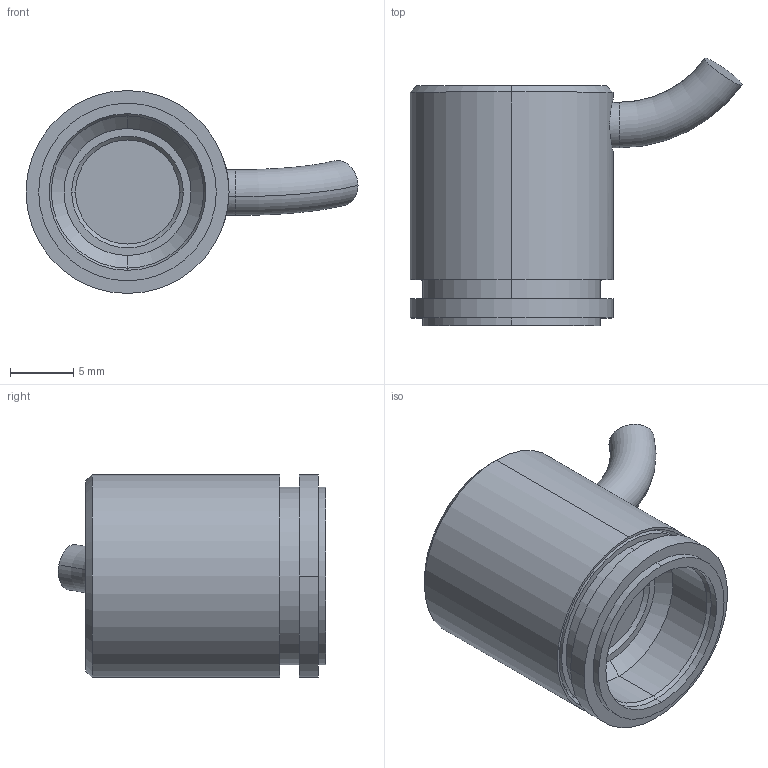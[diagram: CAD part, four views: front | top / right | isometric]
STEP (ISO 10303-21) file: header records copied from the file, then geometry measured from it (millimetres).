
FILE_DESCRIPTION (( 'STEP AP214' ), '1' );
FILE_NAME ('RM16_encoder.STEP', '2022-09-14T12:08:10', ( '' ), ( '' ), 'SwSTEP 2.0', 'SolidWorks 2020', '' );
FILE_SCHEMA (( 'AUTOMOTIVE_DESIGN' ));
Length unit declared in the file: millimetre
Products named in the file (1): RM16_encoder
Bounding box: 26.17 x 21.07 x 16 mm (x, y, z)
Volume: 3144.4 mm3; surface area: 1775.7 mm2
Topology: 1 solids, 1 shells, 337 faces, 887 edges, 588 vertices
Faces by surface type: plane 275, cylinder 31, bspline 19, cone 10, torus 2
Entity records: 15038 total; most frequent: CARTESIAN_POINT 3041, ORIENTED_EDGE 1774, DIRECTION 1543, EDGE_CURVE 887, LINE 767, VECTOR 767, VERTEX_POINT 588, AXIS2_PLACEMENT_3D 388
